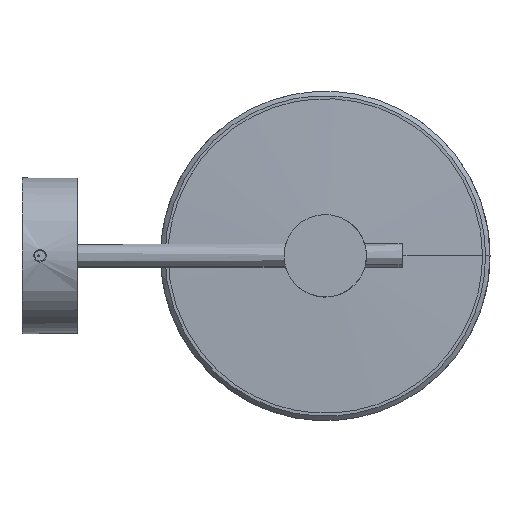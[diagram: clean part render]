
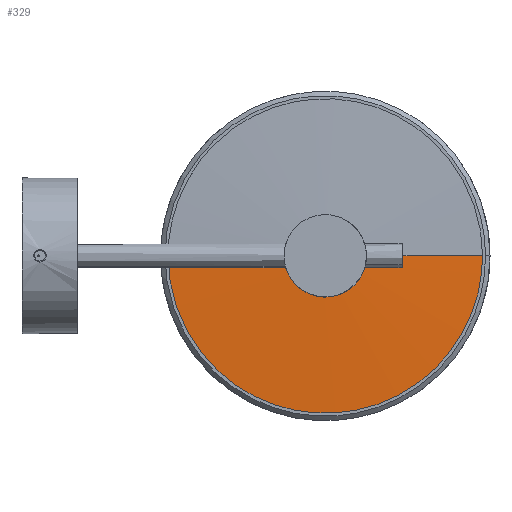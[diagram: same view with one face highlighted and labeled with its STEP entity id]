
A CAD part, top view. The second image highlights one B-rep face of the part: STEP entity #329.
In plain terms, the highlighted free-form (B-spline) face has degree [2, 2] with [9, 9] control points.
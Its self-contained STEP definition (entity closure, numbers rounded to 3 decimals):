
#329=ADVANCED_FACE('',(#718),#5718,.T.);
#718=FACE_OUTER_BOUND('',#1129,.T.);
#1129=EDGE_LOOP('',(#2384,#2385,#2386,#2387));
#2384=ORIENTED_EDGE('',*,*,#3653,.T.);
#2385=ORIENTED_EDGE('',*,*,#3654,.T.);
#2386=ORIENTED_EDGE('',*,*,#3655,.T.);
#2387=ORIENTED_EDGE('',*,*,#3656,.T.);
#3653=EDGE_CURVE('',#5254,#5255,#4716,.T.);
#3654=EDGE_CURVE('',#5255,#5256,#4717,.T.);
#3655=EDGE_CURVE('',#5256,#5257,#4718,.T.);
#3656=EDGE_CURVE('',#5257,#5254,#4719,.T.);
#4716=(
BOUNDED_CURVE()
B_SPLINE_CURVE(2,(#17925,#17926,#17927,#17928,#17929),.UNSPECIFIED.,.F.,
 .F.)
B_SPLINE_CURVE_WITH_KNOTS((3,2,3),(0.,39.27,78.54),
 .UNSPECIFIED.)
CURVE()
GEOMETRIC_REPRESENTATION_ITEM()
RATIONAL_B_SPLINE_CURVE((1.,0.707,1.,0.707,1.))
REPRESENTATION_ITEM('')
);
#4717=(
BOUNDED_CURVE()
B_SPLINE_CURVE(2,(#17930,#17931,#17932),.UNSPECIFIED.,.F.,.F.)
B_SPLINE_CURVE_WITH_KNOTS((3,3),(0.,80.064),.UNSPECIFIED.)
CURVE()
GEOMETRIC_REPRESENTATION_ITEM()
RATIONAL_B_SPLINE_CURVE((1.,0.999,1.))
REPRESENTATION_ITEM('')
);
#4718=(
BOUNDED_CURVE()
B_SPLINE_CURVE(2,(#17933,#17934,#17935,#17936,#17937),.UNSPECIFIED.,.F.,
 .F.)
B_SPLINE_CURVE_WITH_KNOTS((3,2,3),(0.,164.938,329.876),
 .UNSPECIFIED.)
CURVE()
GEOMETRIC_REPRESENTATION_ITEM()
RATIONAL_B_SPLINE_CURVE((1.,0.707,1.,0.707,1.))
REPRESENTATION_ITEM('')
);
#4719=(
BOUNDED_CURVE()
B_SPLINE_CURVE(2,(#17938,#17939,#17940),.UNSPECIFIED.,.F.,.F.)
B_SPLINE_CURVE_WITH_KNOTS((3,3),(0.,80.064),.UNSPECIFIED.)
CURVE()
GEOMETRIC_REPRESENTATION_ITEM()
RATIONAL_B_SPLINE_CURVE((1.,0.999,1.))
REPRESENTATION_ITEM('')
);
#5254=VERTEX_POINT('',#17836);
#5255=VERTEX_POINT('',#17837);
#5256=VERTEX_POINT('',#17838);
#5257=VERTEX_POINT('',#17839);
#5718=(
BOUNDED_SURFACE()
B_SPLINE_SURFACE(2,2,((#17226,#17227,#17228,#17229,#17230,#17231,#17232,
#17233,#17234),(#17235,#17236,#17237,#17238,#17239,#17240,#17241,#17242,
#17243),(#17244,#17245,#17246,#17247,#17248,#17249,#17250,#17251,#17252),
(#17253,#17254,#17255,#17256,#17257,#17258,#17259,#17260,#17261),(#17262,
#17263,#17264,#17265,#17266,#17267,#17268,#17269,#17270),(#17271,#17272,
#17273,#17274,#17275,#17276,#17277,#17278,#17279),(#17280,#17281,#17282,
#17283,#17284,#17285,#17286,#17287,#17288),(#17289,#17290,#17291,#17292,
#17293,#17294,#17295,#17296,#17297),(#17298,#17299,#17300,#17301,#17302,
#17303,#17304,#17305,#17306)),.UNSPECIFIED.,.T.,.F.,.F.)
B_SPLINE_SURFACE_WITH_KNOTS((3,2,2,2,3),(3,2,2,2,3),(0.,1898.491,
3796.981,5695.472,7593.962),(0.,942.111,
1884.223,2826.334,3768.445),.UNSPECIFIED.)
GEOMETRIC_REPRESENTATION_ITEM()
RATIONAL_B_SPLINE_SURFACE(((1.,0.922,1.,0.922,1.,
0.922,1.,0.922,1.),(0.707,0.652,
0.707,0.652,0.707,0.652,0.707,
0.652,0.707),(1.,0.922,1.,0.922,
1.,0.922,1.,0.922,1.),(0.707,0.652,
0.707,0.652,0.707,0.652,0.707,
0.652,0.707),(1.,0.922,1.,0.922,
1.,0.922,1.,0.922,1.),(0.707,0.652,
0.707,0.652,0.707,0.652,0.707,
0.652,0.707),(1.,0.922,1.,0.922,
1.,0.922,1.,0.922,1.),(0.707,0.652,
0.707,0.652,0.707,0.652,0.707,
0.652,0.707),(1.,0.922,1.,0.922,
1.,0.922,1.,0.922,1.)))
REPRESENTATION_ITEM('')
SURFACE()
);
#17226=CARTESIAN_POINT('',(202.5,-17.45,-28.814));
#17227=CARTESIAN_POINT('',(202.5,480.048,-18.304));
#17228=CARTESIAN_POINT('',(202.5,835.607,-366.431));
#17229=CARTESIAN_POINT('',(202.5,1191.167,-714.558));
#17230=CARTESIAN_POINT('',(202.5,1191.167,-1212.167));
#17231=CARTESIAN_POINT('',(202.5,1191.167,-1709.776));
#17232=CARTESIAN_POINT('',(202.5,835.607,-2057.903));
#17233=CARTESIAN_POINT('',(202.5,480.048,-2406.03));
#17234=CARTESIAN_POINT('',(202.5,-17.45,-2395.519));
#17235=CARTESIAN_POINT('',(202.5,-17.45,-28.814));
#17236=CARTESIAN_POINT('',(699.998,480.048,-18.304));
#17237=CARTESIAN_POINT('',(1055.557,835.607,-366.431));
#17238=CARTESIAN_POINT('',(1411.117,1191.167,-714.558));
#17239=CARTESIAN_POINT('',(1411.117,1191.167,-1212.167));
#17240=CARTESIAN_POINT('',(1411.117,1191.167,-1709.776));
#17241=CARTESIAN_POINT('',(1055.557,835.607,-2057.903));
#17242=CARTESIAN_POINT('',(699.998,480.048,-2406.03));
#17243=CARTESIAN_POINT('',(202.5,-17.45,-2395.519));
#17244=CARTESIAN_POINT('',(202.5,-17.45,-28.814));
#17245=CARTESIAN_POINT('',(699.998,-17.45,-18.304));
#17246=CARTESIAN_POINT('',(1055.557,-17.45,-366.431));
#17247=CARTESIAN_POINT('',(1411.117,-17.45,-714.558));
#17248=CARTESIAN_POINT('',(1411.117,-17.45,-1212.167));
#17249=CARTESIAN_POINT('',(1411.117,-17.45,-1709.776));
#17250=CARTESIAN_POINT('',(1055.557,-17.45,-2057.903));
#17251=CARTESIAN_POINT('',(699.998,-17.45,-2406.03));
#17252=CARTESIAN_POINT('',(202.5,-17.45,-2395.519));
#17253=CARTESIAN_POINT('',(202.5,-17.45,-28.814));
#17254=CARTESIAN_POINT('',(699.998,-514.948,-18.304));
#17255=CARTESIAN_POINT('',(1055.557,-870.507,-366.431));
#17256=CARTESIAN_POINT('',(1411.117,-1226.067,-714.558));
#17257=CARTESIAN_POINT('',(1411.117,-1226.067,-1212.167));
#17258=CARTESIAN_POINT('',(1411.117,-1226.067,-1709.776));
#17259=CARTESIAN_POINT('',(1055.557,-870.507,-2057.903));
#17260=CARTESIAN_POINT('',(699.998,-514.948,-2406.03));
#17261=CARTESIAN_POINT('',(202.5,-17.45,-2395.519));
#17262=CARTESIAN_POINT('',(202.5,-17.45,-28.814));
#17263=CARTESIAN_POINT('',(202.5,-514.948,-18.304));
#17264=CARTESIAN_POINT('',(202.5,-870.507,-366.431));
#17265=CARTESIAN_POINT('',(202.5,-1226.067,-714.558));
#17266=CARTESIAN_POINT('',(202.5,-1226.067,-1212.167));
#17267=CARTESIAN_POINT('',(202.5,-1226.067,-1709.776));
#17268=CARTESIAN_POINT('',(202.5,-870.507,-2057.903));
#17269=CARTESIAN_POINT('',(202.5,-514.948,-2406.03));
#17270=CARTESIAN_POINT('',(202.5,-17.45,-2395.519));
#17271=CARTESIAN_POINT('',(202.5,-17.45,-28.814));
#17272=CARTESIAN_POINT('',(-294.998,-514.948,-18.304));
#17273=CARTESIAN_POINT('',(-650.557,-870.507,-366.431));
#17274=CARTESIAN_POINT('',(-1006.117,-1226.067,-714.558));
#17275=CARTESIAN_POINT('',(-1006.117,-1226.067,-1212.167));
#17276=CARTESIAN_POINT('',(-1006.117,-1226.067,-1709.776));
#17277=CARTESIAN_POINT('',(-650.557,-870.507,-2057.903));
#17278=CARTESIAN_POINT('',(-294.998,-514.948,-2406.03));
#17279=CARTESIAN_POINT('',(202.5,-17.45,-2395.519));
#17280=CARTESIAN_POINT('',(202.5,-17.45,-28.814));
#17281=CARTESIAN_POINT('',(-294.998,-17.45,-18.304));
#17282=CARTESIAN_POINT('',(-650.557,-17.45,-366.431));
#17283=CARTESIAN_POINT('',(-1006.117,-17.45,-714.558));
#17284=CARTESIAN_POINT('',(-1006.117,-17.45,-1212.167));
#17285=CARTESIAN_POINT('',(-1006.117,-17.45,-1709.776));
#17286=CARTESIAN_POINT('',(-650.557,-17.45,-2057.903));
#17287=CARTESIAN_POINT('',(-294.998,-17.45,-2406.03));
#17288=CARTESIAN_POINT('',(202.5,-17.45,-2395.519));
#17289=CARTESIAN_POINT('',(202.5,-17.45,-28.814));
#17290=CARTESIAN_POINT('',(-294.998,480.048,-18.304));
#17291=CARTESIAN_POINT('',(-650.557,835.607,-366.431));
#17292=CARTESIAN_POINT('',(-1006.117,1191.167,-714.558));
#17293=CARTESIAN_POINT('',(-1006.117,1191.167,-1212.167));
#17294=CARTESIAN_POINT('',(-1006.117,1191.167,-1709.776));
#17295=CARTESIAN_POINT('',(-650.557,835.607,-2057.903));
#17296=CARTESIAN_POINT('',(-294.998,480.048,-2406.03));
#17297=CARTESIAN_POINT('',(202.5,-17.45,-2395.519));
#17298=CARTESIAN_POINT('',(202.5,-17.45,-28.814));
#17299=CARTESIAN_POINT('',(202.5,480.048,-18.304));
#17300=CARTESIAN_POINT('',(202.5,835.607,-366.431));
#17301=CARTESIAN_POINT('',(202.5,1191.167,-714.558));
#17302=CARTESIAN_POINT('',(202.5,1191.167,-1212.167));
#17303=CARTESIAN_POINT('',(202.5,1191.167,-1709.776));
#17304=CARTESIAN_POINT('',(202.5,835.607,-2057.903));
#17305=CARTESIAN_POINT('',(202.5,480.048,-2406.03));
#17306=CARTESIAN_POINT('',(202.5,-17.45,-2395.519));
#17836=CARTESIAN_POINT('',(227.5,-17.45,-28.55));
#17837=CARTESIAN_POINT('',(177.5,-17.45,-28.55));
#17838=CARTESIAN_POINT('',(97.497,-17.45,-31.257));
#17839=CARTESIAN_POINT('',(307.503,-17.45,-31.257));
#17925=CARTESIAN_POINT('',(227.5,-17.45,-28.55));
#17926=CARTESIAN_POINT('',(227.5,-42.45,-28.55));
#17927=CARTESIAN_POINT('',(202.5,-42.45,-28.55));
#17928=CARTESIAN_POINT('',(177.5,-42.45,-28.55));
#17929=CARTESIAN_POINT('',(177.5,-17.45,-28.55));
#17930=CARTESIAN_POINT('',(177.5,-17.45,-28.55));
#17931=CARTESIAN_POINT('',(137.453,-17.45,-28.55));
#17932=CARTESIAN_POINT('',(97.497,-17.45,-31.257));
#17933=CARTESIAN_POINT('',(97.497,-17.45,-31.257));
#17934=CARTESIAN_POINT('',(97.497,-122.453,-31.257));
#17935=CARTESIAN_POINT('',(202.5,-122.453,-31.257));
#17936=CARTESIAN_POINT('',(307.503,-122.453,-31.257));
#17937=CARTESIAN_POINT('',(307.503,-17.45,-31.257));
#17938=CARTESIAN_POINT('',(307.503,-17.45,-31.257));
#17939=CARTESIAN_POINT('',(267.547,-17.45,-28.55));
#17940=CARTESIAN_POINT('',(227.5,-17.45,-28.55));
